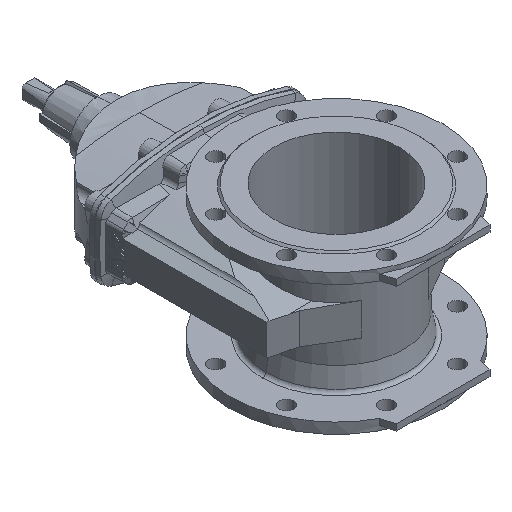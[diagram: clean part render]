
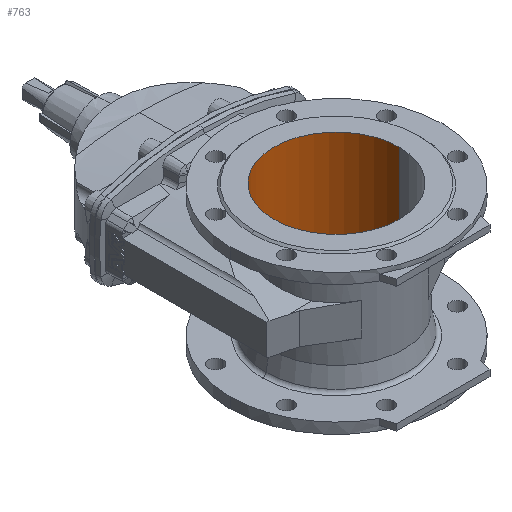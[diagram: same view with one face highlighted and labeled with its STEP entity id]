
A CAD part, isometric view. The second image highlights one B-rep face of the part: STEP entity #763.
In plain terms, the highlighted cylindrical face has radius 100 mm (diameter 200 mm), a partial arc.
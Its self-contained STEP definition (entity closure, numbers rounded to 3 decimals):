
#295 = ORIENTED_EDGE ( 'NONE', *, *, #8140, .F. ) ;
#368 = DIRECTION ( 'NONE',  ( 0., 0., 1. ) ) ;
#410 = AXIS2_PLACEMENT_3D ( 'NONE', #9446, #1268, #2088 ) ;
#539 = EDGE_LOOP ( 'NONE', ( #10488, #295, #1185, #9293 ) ) ;
#763 = ADVANCED_FACE ( 'Defeatured_0_329', ( #4240 ), #8296, .F. ) ;
#898 = VECTOR ( 'NONE', #2971, 1000. ) ;
#1176 = EDGE_CURVE ( 'Defeatured_0_329+Defeatured_0_1+Defeatured_0_1+Defeatured_0_1', #2876, #2174, #9891, .T. ) ;
#1185 = ORIENTED_EDGE ( 'NONE', *, *, #3514, .T. ) ;
#1268 = DIRECTION ( 'NONE',  ( 0., 0., 1. ) ) ;
#2088 = DIRECTION ( 'NONE',  ( 1., 0., 0. ) ) ;
#2174 = VERTEX_POINT ( 'NONE', #12323 ) ;
#2416 = CARTESIAN_POINT ( 'NONE',  ( 0., 0., -115. ) ) ;
#2876 = VERTEX_POINT ( 'NONE', #9793 ) ;
#2971 = DIRECTION ( 'NONE',  ( 0., 0., 1. ) ) ;
#3514 = EDGE_CURVE ( 'NONE', #9496, #2876, #11989, .T. ) ;
#3618 = DIRECTION ( 'NONE',  ( 1., 0., 0. ) ) ;
#4099 = CARTESIAN_POINT ( 'NONE',  ( -100., 0., 0. ) ) ;
#4240 = FACE_OUTER_BOUND ( 'NONE', #539, .T. ) ;
#4292 = CARTESIAN_POINT ( 'NONE',  ( -100., 0., -115. ) ) ;
#5184 = DIRECTION ( 'NONE',  ( 0., 0., 1. ) ) ;
#6538 = DIRECTION ( 'NONE',  ( 0., 0., 1. ) ) ;
#6909 = CIRCLE ( 'NONE', #9494, 100. ) ;
#6968 = CARTESIAN_POINT ( 'NONE',  ( 100., 0., 0. ) ) ;
#7113 = VECTOR ( 'NONE', #5184, 1000. ) ;
#8140 = EDGE_CURVE ( 'Defeatured_0_0+Defeatured_0_329+Defeatured_0_329+Defeatured_0_329', #9496, #10813, #6909, .T. ) ;
#8296 = CYLINDRICAL_SURFACE ( 'NONE', #410, 100. ) ;
#9178 = LINE ( 'NONE', #4099, #7113 ) ;
#9293 = ORIENTED_EDGE ( 'NONE', *, *, #1176, .T. ) ;
#9446 = CARTESIAN_POINT ( 'NONE',  ( 0., 0., 0. ) ) ;
#9494 = AXIS2_PLACEMENT_3D ( 'NONE', #2416, #6538, #3618 ) ;
#9496 = VERTEX_POINT ( 'NONE', #11076 ) ;
#9543 = EDGE_CURVE ( 'NONE', #10813, #2174, #9178, .T. ) ;
#9793 = CARTESIAN_POINT ( 'NONE',  ( 100., 0., 115. ) ) ;
#9891 = CIRCLE ( 'NONE', #10969, 100. ) ;
#10488 = ORIENTED_EDGE ( 'NONE', *, *, #9543, .F. ) ;
#10573 = CARTESIAN_POINT ( 'NONE',  ( 0., 0., 115. ) ) ;
#10777 = DIRECTION ( 'NONE',  ( 1., 0., 0. ) ) ;
#10813 = VERTEX_POINT ( 'NONE', #4292 ) ;
#10969 = AXIS2_PLACEMENT_3D ( 'NONE', #10573, #368, #10777 ) ;
#11076 = CARTESIAN_POINT ( 'NONE',  ( 100., 0., -115. ) ) ;
#11989 = LINE ( 'NONE', #6968, #898 ) ;
#12323 = CARTESIAN_POINT ( 'NONE',  ( -100., 0., 115. ) ) ;
